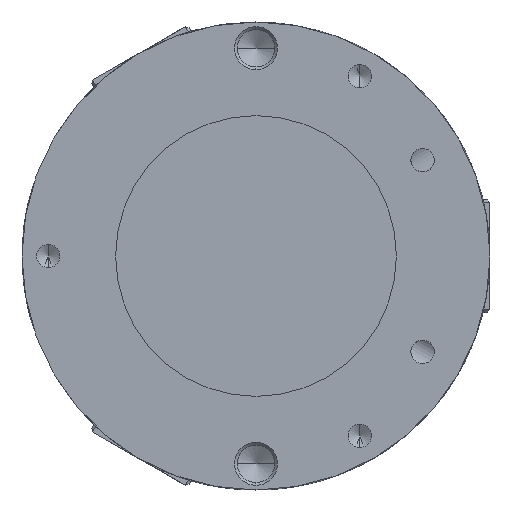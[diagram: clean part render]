
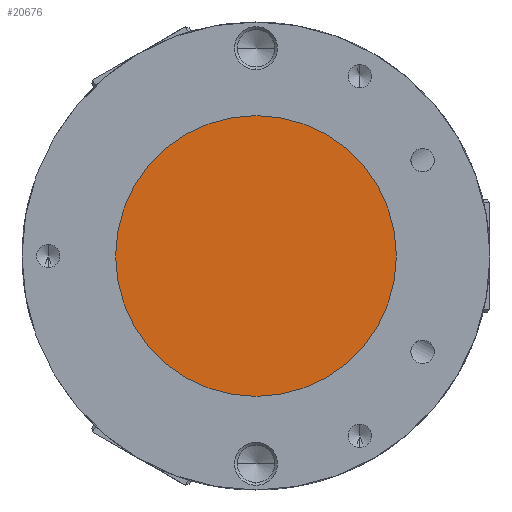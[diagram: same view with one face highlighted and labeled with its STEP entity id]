
A CAD part, front view. The second image highlights one B-rep face of the part: STEP entity #20676.
In plain terms, the highlighted planar face has unit normal (0, -1, 0).
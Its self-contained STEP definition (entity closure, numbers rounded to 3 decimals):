
#9567 = CARTESIAN_POINT ( 'NONE',  ( 0., 0.5, 0. ) ) ;
#11832 = EDGE_LOOP ( 'NONE', ( #68023, #68921 ) ) ;
#12028 = CARTESIAN_POINT ( 'NONE',  ( 0., 0.5, 0. ) ) ;
#12621 = PLANE ( 'NONE',  #66212 ) ;
#13315 = CIRCLE ( 'NONE', #31228, 15. ) ;
#14480 = AXIS2_PLACEMENT_3D ( 'NONE', #12028, #52435, #17821 ) ;
#15384 = DIRECTION ( 'NONE',  ( 0., 0., -1. ) ) ;
#17821 = DIRECTION ( 'NONE',  ( 0., 0., -1. ) ) ;
#18427 = DIRECTION ( 'NONE',  ( 0., -1., 0. ) ) ;
#20676 = ADVANCED_FACE ( 'NONE', ( #22086 ), #12621, .T. ) ;
#22086 = FACE_OUTER_BOUND ( 'NONE', #11832, .T. ) ;
#28082 = EDGE_CURVE ( 'NONE', #54725, #74824, #46224, .T. ) ;
#28397 = CARTESIAN_POINT ( 'NONE',  ( 0., 0.5, -15. ) ) ;
#31228 = AXIS2_PLACEMENT_3D ( 'NONE', #9567, #49978, #15384 ) ;
#39112 = EDGE_CURVE ( 'NONE', #74824, #54725, #13315, .T. ) ;
#46224 = CIRCLE ( 'NONE', #14480, 15. ) ;
#49978 = DIRECTION ( 'NONE',  ( 0., -1., 0. ) ) ;
#52435 = DIRECTION ( 'NONE',  ( 0., -1., 0. ) ) ;
#52539 = CARTESIAN_POINT ( 'NONE',  ( 0., 0.5, 0. ) ) ;
#54725 = VERTEX_POINT ( 'NONE', #28397 ) ;
#58852 = DIRECTION ( 'NONE',  ( 0., 0., -1. ) ) ;
#66212 = AXIS2_PLACEMENT_3D ( 'NONE', #52539, #18427, #58852 ) ;
#68023 = ORIENTED_EDGE ( 'NONE', *, *, #28082, .T. ) ;
#68921 = ORIENTED_EDGE ( 'NONE', *, *, #39112, .T. ) ;
#72383 = CARTESIAN_POINT ( 'NONE',  ( 0., 0.5, 15. ) ) ;
#74824 = VERTEX_POINT ( 'NONE', #72383 ) ;
